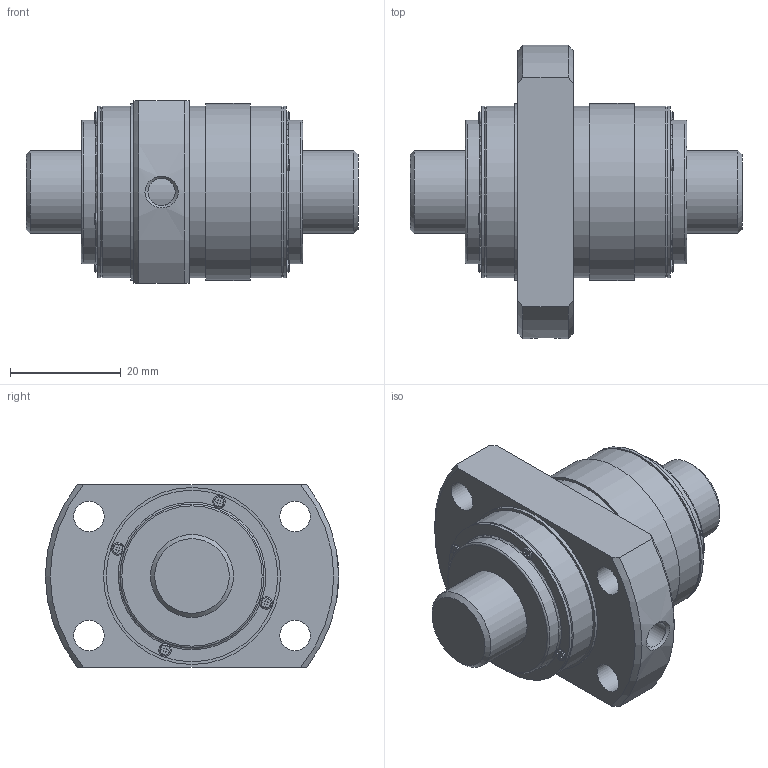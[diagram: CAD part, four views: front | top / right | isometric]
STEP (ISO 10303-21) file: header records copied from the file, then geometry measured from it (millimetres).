
FILE_DESCRIPTION(/* description */ ('STEP AP203'),/* implementation_level */ '2;1');
FILE_NAME(/* name */ 'WTF1530-2ZZ+60LC7T_000_rev',/* time_stamp */ '2025-06-11T06:39:01+02:00',/* author */ ('License CC BY-ND 4.0'),/* organization */ ('CADENAS'),/* preprocessor_version */ 'ST-DEVELOPER v19.3',/* originating_system */ 'PARTsolutions',/* authorisation */ ' ');
FILE_SCHEMA (('CONFIG_CONTROL_DESIGN'));
Length unit declared in the file: millimetre
Products named in the file (3): WTF1530-2ZZ+60LC7T_000_rev; WTF1530-20ZZ0 Shaft; WTF1530-2ZZ Nut
Assembly tree (2 placements, depth 2):
  WTF1530-2ZZ+60LC7T_000_rev
    WTF1530-20ZZ0 Shaft
    WTF1530-2ZZ Nut
Bounding box: 60 x 53 x 33 mm (x, y, z)
Volume: 40178.7 mm3; surface area: 13171.2 mm2
Topology: 2 solids, 2 shells, 206 faces, 539 edges, 354 vertices
Faces by surface type: plane 127, cylinder 58, torus 12, cone 9
Full cylindrical faces by diameter (mm): 2.24 x8, 4.917 x1, 5.5 x4, 15 x2, 26 x2, 31 x5, 32 x2
Entity records: 6151 total; most frequent: CARTESIAN_POINT 1115, DIRECTION 1028, ORIENTED_EDGE 974, EDGE_CURVE 487, AXIS2_PLACEMENT_3D 350, VERTEX_POINT 343, LINE 328, VECTOR 328
